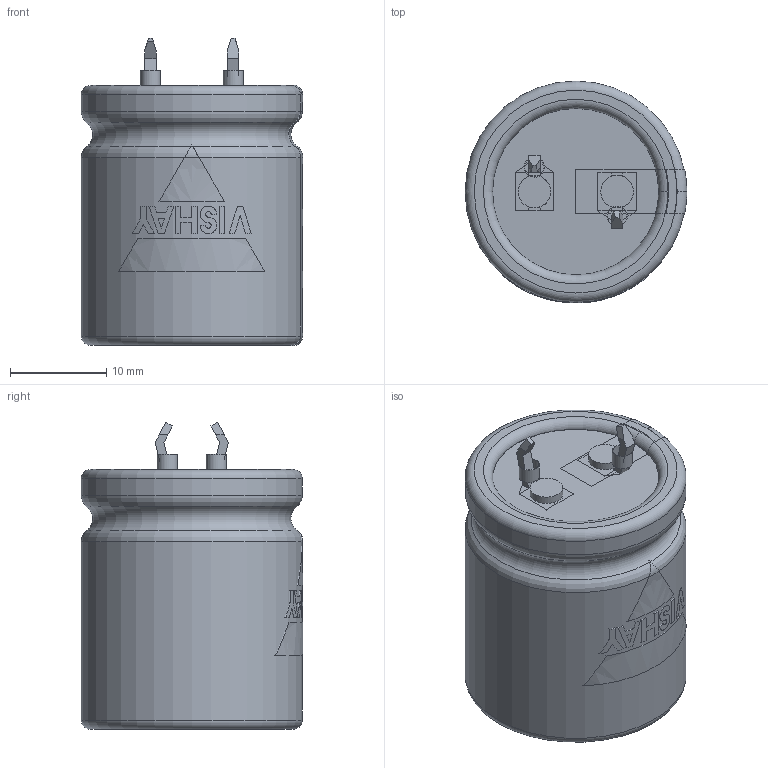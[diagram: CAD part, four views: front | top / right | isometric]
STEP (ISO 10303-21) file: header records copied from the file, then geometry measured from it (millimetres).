
FILE_DESCRIPTION(('FreeCAD Model'),'2;1');
FILE_NAME( 'C:/Users/Gebruiker/Documents/FreeCAD/SnapIn_22x25_2pin_4.0.step', '2020-11-12T19:46:15',('Author'),(''), 'Open CASCADE STEP processor 6.8','FreeCAD','Unknown');
FILE_SCHEMA(('AUTOMOTIVE_DESIGN_CC2 { 1 2 10303 214 -1 1 5 4 }'));
Length unit declared in the file: millimetre
Products named in the file (9): ASSEMBLY; TerminalMin; TerminalPlus; PCBHoles; Disc; BottomInsulation; Can3D; InkMinusBar; InkLogo
Assembly tree (8 placements, depth 2):
  ASSEMBLY
    TerminalMin
    TerminalPlus
    PCBHoles
    Disc
    BottomInsulation
    Can3D
    InkMinusBar
    InkLogo
Bounding box: 23.05 x 23.05 x 31.95 mm (x, y, z)
Volume: 12699 mm3; surface area: 6982.4 mm2
Topology: 16 solids, 16 shells, 190 faces, 463 edges, 303 vertices
Faces by surface type: plane 141, cylinder 29, torus 20
Full cylindrical faces by diameter (mm): 2 x2, 2.1 x2, 3.4 x2, 17.3 x1, 18.4 x2, 23 x2
Entity records: 19942 total; most frequent: CARTESIAN_POINT 9537, DIRECTION 1627, ORIENTED_EDGE 926, PCURVE 926, DEFINITIONAL_REPRESENTATION 926, LINE 899, VECTOR 899, EDGE_CURVE 463
